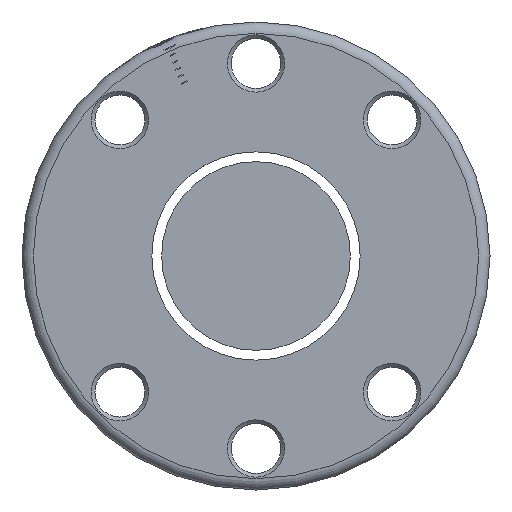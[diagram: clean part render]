
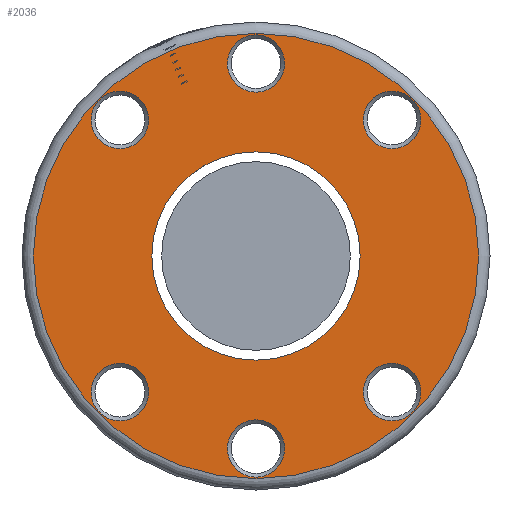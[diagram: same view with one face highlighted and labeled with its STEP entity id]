
A CAD part, left-side view. The second image highlights one B-rep face of the part: STEP entity #2036.
In plain terms, the highlighted planar face has unit normal (-1, 0, 0).
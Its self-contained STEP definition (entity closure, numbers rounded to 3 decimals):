
#20 = CARTESIAN_POINT ( 'NONE',  ( -63., 0., 29.5 ) ) ;
#32 = FACE_BOUND ( 'NONE', #2011, .T. ) ;
#52 = AXIS2_PLACEMENT_3D ( 'NONE', #1897, #218, #1462 ) ;
#190 = CARTESIAN_POINT ( 'NONE',  ( -63., -18.031, 18.031 ) ) ;
#193 = CARTESIAN_POINT ( 'NONE',  ( -63., 31., 0. ) ) ;
#204 = DIRECTION ( 'NONE',  ( 1., 0., 0. ) ) ;
#208 = CARTESIAN_POINT ( 'NONE',  ( -63., -18.031, -14.231 ) ) ;
#212 = DIRECTION ( 'NONE',  ( 0., 0., 1. ) ) ;
#218 = DIRECTION ( 'NONE',  ( 1., 0., 0. ) ) ;
#222 = VERTEX_POINT ( 'NONE', #831 ) ;
#231 = EDGE_LOOP ( 'NONE', ( #903 ) ) ;
#235 = DIRECTION ( 'NONE',  ( 1., 0., 0. ) ) ;
#261 = EDGE_CURVE ( 'NONE', #222, #222, #2594, .T. ) ;
#294 = DIRECTION ( 'NONE',  ( 0., 0., 1. ) ) ;
#318 = DIRECTION ( 'NONE',  ( 1., 0., 0. ) ) ;
#335 = EDGE_LOOP ( 'NONE', ( #746 ) ) ;
#354 = AXIS2_PLACEMENT_3D ( 'NONE', #1613, #991, #2214 ) ;
#368 = EDGE_CURVE ( 'NONE', #1875, #1875, #1415, .T. ) ;
#372 = EDGE_CURVE ( 'NONE', #1067, #1067, #1810, .T. ) ;
#404 = CIRCLE ( 'NONE', #2681, 3.8 ) ;
#454 = FACE_BOUND ( 'NONE', #335, .T. ) ;
#475 = EDGE_LOOP ( 'NONE', ( #2707 ) ) ;
#510 = ORIENTED_EDGE ( 'NONE', *, *, #601, .T. ) ;
#601 = EDGE_CURVE ( 'NONE', #1036, #1036, #1156, .T. ) ;
#626 = DIRECTION ( 'NONE',  ( 1., 0., 0. ) ) ;
#661 = EDGE_CURVE ( 'NONE', #1452, #1452, #1112, .T. ) ;
#684 = EDGE_LOOP ( 'NONE', ( #1441 ) ) ;
#746 = ORIENTED_EDGE ( 'NONE', *, *, #2189, .T. ) ;
#759 = AXIS2_PLACEMENT_3D ( 'NONE', #2049, #1403, #2430 ) ;
#807 = EDGE_CURVE ( 'NONE', #1468, #1468, #2074, .T. ) ;
#831 = CARTESIAN_POINT ( 'NONE',  ( -63., 0., -21.7 ) ) ;
#876 = FACE_BOUND ( 'NONE', #1738, .T. ) ;
#893 = AXIS2_PLACEMENT_3D ( 'NONE', #1670, #2702, #2688 ) ;
#903 = ORIENTED_EDGE ( 'NONE', *, *, #372, .T. ) ;
#915 = ORIENTED_EDGE ( 'NONE', *, *, #661, .T. ) ;
#972 = ORIENTED_EDGE ( 'NONE', *, *, #261, .T. ) ;
#991 = DIRECTION ( 'NONE',  ( 1., 0., 0. ) ) ;
#1036 = VERTEX_POINT ( 'NONE', #1258 ) ;
#1067 = VERTEX_POINT ( 'NONE', #2487 ) ;
#1112 = CIRCLE ( 'NONE', #2511, 13.8 ) ;
#1156 = CIRCLE ( 'NONE', #1240, 3.8 ) ;
#1240 = AXIS2_PLACEMENT_3D ( 'NONE', #190, #235, #1646 ) ;
#1258 = CARTESIAN_POINT ( 'NONE',  ( -63., -18.031, 21.831 ) ) ;
#1267 = DIRECTION ( 'NONE',  ( 0., 0., -1. ) ) ;
#1327 = VERTEX_POINT ( 'NONE', #1771 ) ;
#1403 = DIRECTION ( 'NONE',  ( 1., 0., 0. ) ) ;
#1415 = CIRCLE ( 'NONE', #893, 29.5 ) ;
#1441 = ORIENTED_EDGE ( 'NONE', *, *, #807, .T. ) ;
#1451 = PLANE ( 'NONE',  #2118 ) ;
#1452 = VERTEX_POINT ( 'NONE', #1674 ) ;
#1461 = EDGE_LOOP ( 'NONE', ( #915 ) ) ;
#1462 = DIRECTION ( 'NONE',  ( 0., 0., 1. ) ) ;
#1467 = DIRECTION ( 'NONE',  ( -1., 0., 0. ) ) ;
#1468 = VERTEX_POINT ( 'NONE', #208 ) ;
#1524 = CARTESIAN_POINT ( 'NONE',  ( -63., 18.031, -18.031 ) ) ;
#1598 = CIRCLE ( 'NONE', #1643, 3.8 ) ;
#1613 = CARTESIAN_POINT ( 'NONE',  ( -63., -18.031, -18.031 ) ) ;
#1617 = EDGE_CURVE ( 'NONE', #1327, #1327, #1598, .T. ) ;
#1643 = AXIS2_PLACEMENT_3D ( 'NONE', #2710, #626, #212 ) ;
#1646 = DIRECTION ( 'NONE',  ( 0., 0., 1. ) ) ;
#1670 = CARTESIAN_POINT ( 'NONE',  ( -63., 0., 0. ) ) ;
#1674 = CARTESIAN_POINT ( 'NONE',  ( -63., 0., -13.8 ) ) ;
#1701 = FACE_BOUND ( 'NONE', #684, .T. ) ;
#1715 = FACE_BOUND ( 'NONE', #1461, .T. ) ;
#1738 = EDGE_LOOP ( 'NONE', ( #2577 ) ) ;
#1771 = CARTESIAN_POINT ( 'NONE',  ( -63., 0., 29.3 ) ) ;
#1810 = CIRCLE ( 'NONE', #52, 3.8 ) ;
#1858 = EDGE_LOOP ( 'NONE', ( #510 ) ) ;
#1875 = VERTEX_POINT ( 'NONE', #20 ) ;
#1897 = CARTESIAN_POINT ( 'NONE',  ( -63., 18.031, 18.031 ) ) ;
#1917 = FACE_OUTER_BOUND ( 'NONE', #475, .T. ) ;
#2011 = EDGE_LOOP ( 'NONE', ( #972 ) ) ;
#2036 = ADVANCED_FACE ( 'NONE', ( #1917, #2486, #454, #32, #1701, #2308, #876, #1715 ), #1451, .T. ) ;
#2049 = CARTESIAN_POINT ( 'NONE',  ( -63., 0., -25.5 ) ) ;
#2074 = CIRCLE ( 'NONE', #354, 3.8 ) ;
#2103 = CARTESIAN_POINT ( 'NONE',  ( -63., 0., 0. ) ) ;
#2118 = AXIS2_PLACEMENT_3D ( 'NONE', #193, #1467, #2705 ) ;
#2189 = EDGE_CURVE ( 'NONE', #2584, #2584, #404, .T. ) ;
#2214 = DIRECTION ( 'NONE',  ( 0., 0., 1. ) ) ;
#2308 = FACE_BOUND ( 'NONE', #1858, .T. ) ;
#2366 = CARTESIAN_POINT ( 'NONE',  ( -63., 18.031, -14.231 ) ) ;
#2430 = DIRECTION ( 'NONE',  ( 0., 0., 1. ) ) ;
#2486 = FACE_BOUND ( 'NONE', #231, .T. ) ;
#2487 = CARTESIAN_POINT ( 'NONE',  ( -63., 18.031, 21.831 ) ) ;
#2511 = AXIS2_PLACEMENT_3D ( 'NONE', #2103, #204, #1267 ) ;
#2577 = ORIENTED_EDGE ( 'NONE', *, *, #1617, .T. ) ;
#2584 = VERTEX_POINT ( 'NONE', #2366 ) ;
#2594 = CIRCLE ( 'NONE', #759, 3.8 ) ;
#2681 = AXIS2_PLACEMENT_3D ( 'NONE', #1524, #318, #294 ) ;
#2688 = DIRECTION ( 'NONE',  ( 0., 0., 1. ) ) ;
#2702 = DIRECTION ( 'NONE',  ( -1., 0., 0. ) ) ;
#2705 = DIRECTION ( 'NONE',  ( 0., 0., 1. ) ) ;
#2707 = ORIENTED_EDGE ( 'NONE', *, *, #368, .T. ) ;
#2710 = CARTESIAN_POINT ( 'NONE',  ( -63., 0., 25.5 ) ) ;
